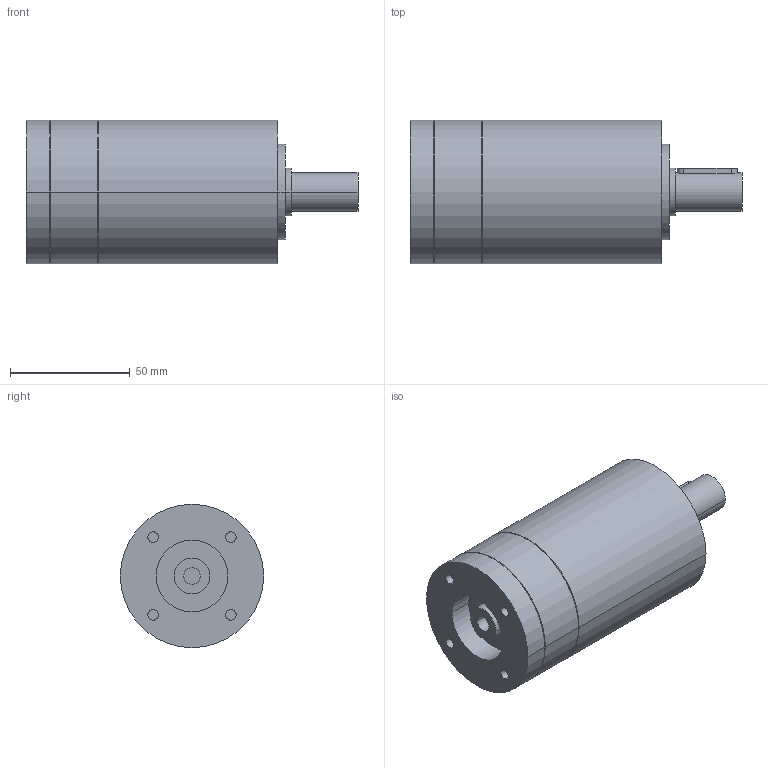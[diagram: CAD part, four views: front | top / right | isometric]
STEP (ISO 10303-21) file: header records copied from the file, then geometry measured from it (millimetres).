
FILE_DESCRIPTION(('CoCreate Modeling STEP Export'),'2;1');
FILE_NAME('GPR75_ig-9-12-16-20-24-30-36_16_B14_7_P21.stp','2014-08-25T16:05:31',(''),(''),'CoCreate Modeling STEP processor for AP214 (Solid Model)','CoCreate Modeling 16.00C 25-Feb-2009 (C) Parametric Technology GmbH','');
FILE_SCHEMA(('AUTOMOTIVE_DESIGN { 1 0 10303 214 1 1 1 1 }'));
Length unit declared in the file: millimetre
Products named in the file (2): GPR75_ig-9-12-16-20-24-30-36_16_B14_7_P21
Assembly tree (1 placements, depth 2):
  GPR75_ig-9-12-16-20-24-30-36_16_B14_7_P21
    GPR75_ig-9-12-16-20-24-30-36_16_B14_7_P21
Bounding box: 138.9 x 60 x 60 mm (x, y, z)
Volume: 299647.3 mm3; surface area: 31191.8 mm2
Topology: 1 solids, 1 shells, 77 faces, 196 edges, 140 vertices
Faces by surface type: cylinder 46, plane 25, cone 6
Entity records: 1966 total; most frequent: ORIENTED_EDGE 388, CARTESIAN_POINT 360, DIRECTION 254, EDGE_CURVE 194, VERTEX_POINT 140, AXIS2_PLACEMENT_3D 98, EDGE_LOOP 98, FACE_OUTER_BOUND 77
